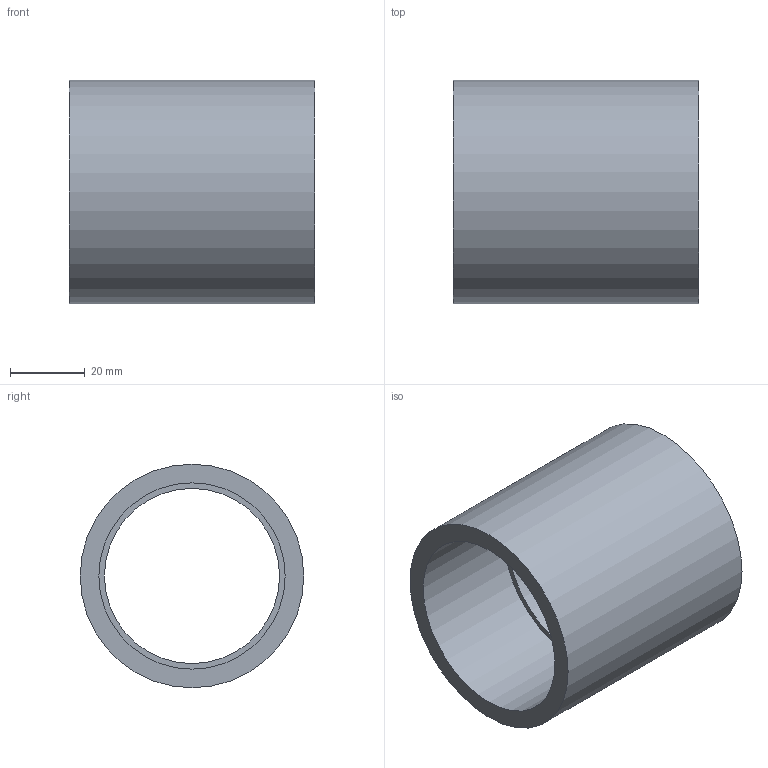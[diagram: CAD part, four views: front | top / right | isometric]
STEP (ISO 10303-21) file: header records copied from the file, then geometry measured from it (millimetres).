
FILE_DESCRIPTION(/* description */ ('PVC manicotti metrici incollaggio'),/* implementation_level */ '2;1');
FILE_NAME(/* name */ 'C:\Users\POLYPIPE\Desktop\DATASET INVENTOR\LIBRERIA EFFAST\RACCORDI 3DxWEB\RDR\3D_RDRMAD\3D_RDRMAD0500.stp',/* time_stamp */ '2018-01-19T14:38:50+01:00',/* author */ ('POLYPIPE'),/* organization */ ('Polypipe Italia s.r.l.'),/* preprocessor_version */ 'ST-DEVELOPER v16.1',/* originating_system */ 'Autodesk Inventor 2016',/* authorisation */ '');
FILE_SCHEMA (('CONFIG_CONTROL_DESIGN'));
Length unit declared in the file: millimetre
Products named in the file (1): 3D_RDRMAD
Bounding box: 66 x 60 x 60 mm (x, y, z)
Volume: 57934.1 mm3; surface area: 24955.2 mm2
Topology: 1 solids, 1 shells, 8 faces, 12 edges, 8 vertices
Faces by surface type: cylinder 4, plane 4
Full cylindrical faces by diameter (mm): 47 x1, 50 x2, 60 x1
Entity records: 192 total; most frequent: DIRECTION 34, CARTESIAN_POINT 25, AXIS2_PLACEMENT_3D 17, EDGE_LOOP 16, ORIENTED_EDGE 16, FACE_BOUND 8, FACE_OUTER_BOUND 8, CIRCLE 8
